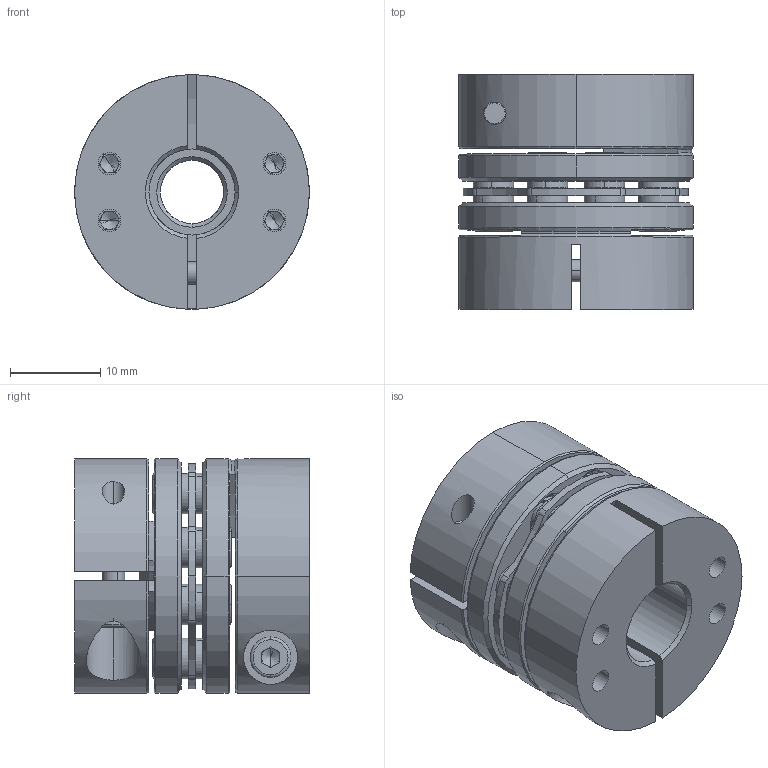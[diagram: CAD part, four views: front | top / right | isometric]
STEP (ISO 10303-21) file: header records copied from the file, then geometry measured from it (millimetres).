
FILE_DESCRIPTION (( 'STEP AP203' ), '1' );
FILE_NAME ('LDG-D26-7-9.525.STEP', '2021-10-28T03:28:46', ( '' ), ( '' ), 'SwSTEP 2.0', 'SolidWorks 2018', '' );
FILE_SCHEMA (( 'CONFIG_CONTROL_DESIGN' ));
Length unit declared in the file: millimetre
Products named in the file (2): LDG-D26-7-9.525; 錨璃2^LDG-D26蚾饜芞1
Assembly tree (1 placements, depth 2):
  LDG-D26-7-9.525
    錨璃2^LDG-D26蚾饜芞1
Bounding box: 26 x 26 x 26 mm (x, y, z)
Volume: 10031.9 mm3; surface area: 9022 mm2
Topology: 1 solids, 21 shells, 765 faces, 1872 edges, 1159 vertices
Faces by surface type: cylinder 301, plane 244, cone 200, torus 20
Entity records: 23057 total; most frequent: DIRECTION 4281, CARTESIAN_POINT 4164, ORIENTED_EDGE 3688, EDGE_CURVE 1844, AXIS2_PLACEMENT_3D 1740, VERTEX_POINT 1159, CIRCLE 971, EDGE_LOOP 909
